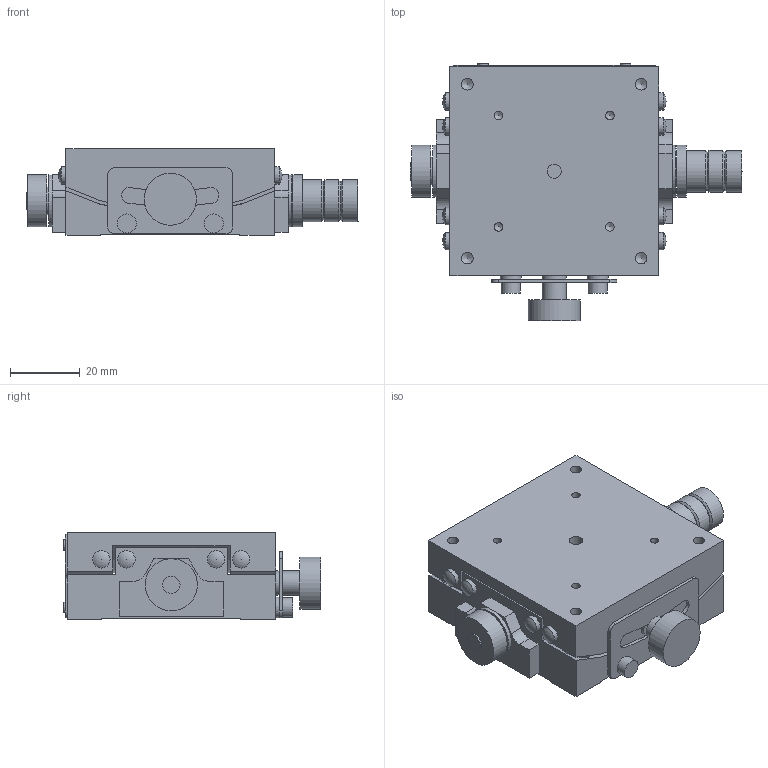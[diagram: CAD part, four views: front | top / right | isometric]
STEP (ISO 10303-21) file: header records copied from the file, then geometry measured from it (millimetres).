
FILE_DESCRIPTION( ( 'STEP AP203' ), '1' );
FILE_NAME( 'C:/Documents and Settings/09371/デスクトップ/CAD-ORG-STEP-DATA-3D簡素化依頼/3D_DATA_STEP/B56-60USR.step', '2007-02-08T00:34:55', ( ' ' ), ( ' ' ), 'XStep 1.0', ' ', ' ' );
FILE_SCHEMA( ( 'CONFIG_CONTROL_DESIGN' ) );
Length unit declared in the file: millimetre
Products named in the file (3): 1; 2; 3
Bounding box: 95.5 x 74.1 x 25 mm (x, y, z)
Volume: 93465.4 mm3; surface area: 30705.9 mm2
Topology: 3 solids, 3 shells, 192 faces, 490 edges, 323 vertices
Faces by surface type: plane 86, cylinder 86, cone 12, sphere 8
Full cylindrical faces by diameter (mm): 2.5 x8, 3 x4, 3.3 x8, 4 x3, 4.5 x4, 5 x11, 5.5 x2, 6 x2, 7 x2, 8 x6, 12 x3, 15 x5
Entity records: 5354 total; most frequent: CARTESIAN_POINT 1076, DIRECTION 908, ORIENTED_EDGE 702, AXIS2_PLACEMENT_3D 366, EDGE_CURVE 351, EDGE_LOOP 307, VERTEX_POINT 274, FACE_OUTER_BOUND 250
